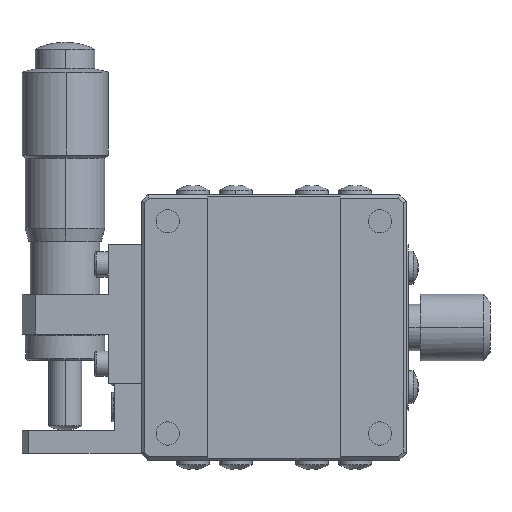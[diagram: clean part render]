
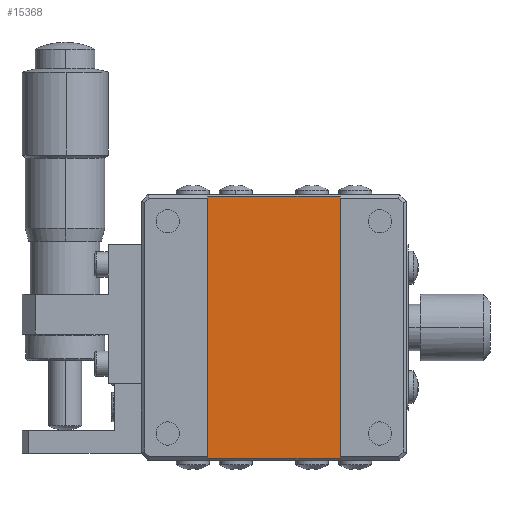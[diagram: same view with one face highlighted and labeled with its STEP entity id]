
A CAD part, front view. The second image highlights one B-rep face of the part: STEP entity #15368.
In plain terms, the highlighted planar face has unit normal (0, -1, 0).
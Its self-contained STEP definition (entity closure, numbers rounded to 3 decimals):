
#2196 = LINE ( 'NONE', #2212, #2774 ) ;
#2201 = LINE ( 'NONE', #2202, #2772 ) ;
#2202 = CARTESIAN_POINT ( 'NONE',  ( -119.265, -0.534, 74.953 ) ) ;
#2203 = DIRECTION ( 'NONE',  ( 1., 0., 0. ) ) ;
#2204 = LINE ( 'NONE', #2205, #2773 ) ;
#2205 = CARTESIAN_POINT ( 'NONE',  ( -119.265, -0.534, 75.153 ) ) ;
#2206 = DIRECTION ( 'NONE',  ( 0., 0., 1. ) ) ;
#2209 = LINE ( 'NONE', #2210, #2775 ) ;
#2210 = CARTESIAN_POINT ( 'NONE',  ( -99.265, -0.534, 75.153 ) ) ;
#2211 = DIRECTION ( 'NONE',  ( 0., 0., -1. ) ) ;
#2212 = CARTESIAN_POINT ( 'NONE',  ( -119.265, -0.534, 35.353 ) ) ;
#2214 = DIRECTION ( 'NONE',  ( -1., 0., 0. ) ) ;
#2772 = VECTOR ( 'NONE', #2203, 1000. ) ;
#2773 = VECTOR ( 'NONE', #2206, 1000. ) ;
#2774 = VECTOR ( 'NONE', #2214, 1000. ) ;
#2775 = VECTOR ( 'NONE', #2211, 1000. ) ;
#3621 = CARTESIAN_POINT ( 'NONE',  ( -119.265, -0.534, 75.153 ) ) ;
#3624 = FACE_OUTER_BOUND ( 'NONE', #17551, .T. ) ;
#3625 = PLANE ( 'NONE',  #4089 ) ;
#3628 = DIRECTION ( 'NONE',  ( 0., 1., 0. ) ) ;
#3629 = DIRECTION ( 'NONE',  ( 0., 0., 1. ) ) ;
#4089 = AXIS2_PLACEMENT_3D ( 'NONE', #3621, #3628, #3629 ) ;
#5208 = CARTESIAN_POINT ( 'NONE',  ( -99.265, -0.534, 35.353 ) ) ;
#5228 = CARTESIAN_POINT ( 'NONE',  ( -99.265, -0.534, 74.953 ) ) ;
#5238 = CARTESIAN_POINT ( 'NONE',  ( -119.265, -0.534, 74.953 ) ) ;
#5259 = CARTESIAN_POINT ( 'NONE',  ( -119.265, -0.534, 35.353 ) ) ;
#11923 = ORIENTED_EDGE ( 'NONE', *, *, #14033, .F. ) ;
#11924 = ORIENTED_EDGE ( 'NONE', *, *, #14034, .F. ) ;
#11925 = ORIENTED_EDGE ( 'NONE', *, *, #14037, .F. ) ;
#11926 = ORIENTED_EDGE ( 'NONE', *, *, #14036, .F. ) ;
#14033 = EDGE_CURVE ( 'NONE', #16075, #16065, #2201, .T. ) ;
#14034 = EDGE_CURVE ( 'NONE', #16096, #16075, #2204, .T. ) ;
#14036 = EDGE_CURVE ( 'NONE', #16065, #16045, #2209, .T. ) ;
#14037 = EDGE_CURVE ( 'NONE', #16045, #16096, #2196, .T. ) ;
#15368 = ADVANCED_FACE ( 'NONE', ( #3624 ), #3625, .F. ) ;
#16045 = VERTEX_POINT ( 'NONE', #5208 ) ;
#16065 = VERTEX_POINT ( 'NONE', #5228 ) ;
#16075 = VERTEX_POINT ( 'NONE', #5238 ) ;
#16096 = VERTEX_POINT ( 'NONE', #5259 ) ;
#17551 = EDGE_LOOP ( 'NONE', ( #11923, #11924, #11925, #11926 ) ) ;
